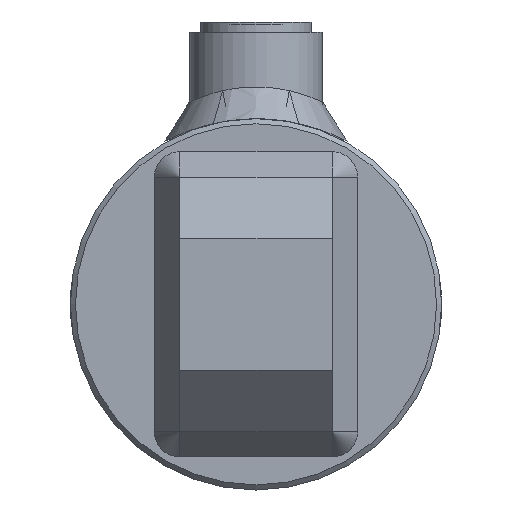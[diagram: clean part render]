
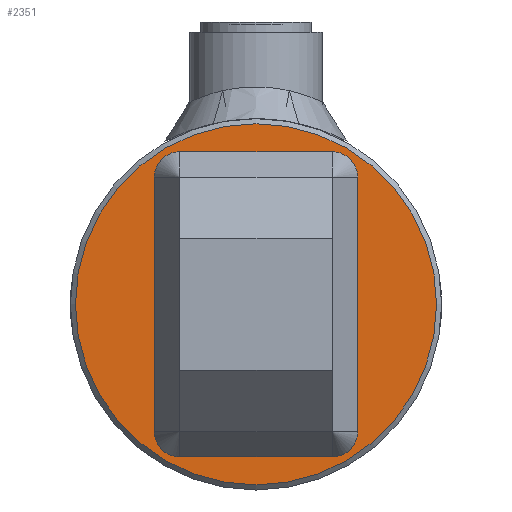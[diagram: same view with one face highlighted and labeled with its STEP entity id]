
A CAD part, left-side view. The second image highlights one B-rep face of the part: STEP entity #2351.
In plain terms, the highlighted planar face has unit normal (-1, 0, 0).
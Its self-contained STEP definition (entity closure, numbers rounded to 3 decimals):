
#2351 = ADVANCED_FACE( '', ( #5794 ), #5795, .T. );
#5794 = FACE_OUTER_BOUND( '', #7311, .T. );
#5795 = PLANE( '', #7312 );
#7311 = EDGE_LOOP( '', ( #8019 ) );
#7312 = AXIS2_PLACEMENT_3D( '', #8020, #8021, #8022 );
#8019 = ORIENTED_EDGE( '', *, *, #9028, .T. );
#8020 = CARTESIAN_POINT( '', ( -12., 0., 0. ) );
#8021 = DIRECTION( '', ( -1., 0., 0. ) );
#8022 = DIRECTION( '', ( 0., -1., 0. ) );
#9028 = EDGE_CURVE( '', #10999, #10999, #11000, .T. );
#10999 = VERTEX_POINT( '', #11935 );
#11000 = CIRCLE( '', #11936, 35.5 );
#11935 = CARTESIAN_POINT( '', ( -12., -35.5, 0. ) );
#11936 = AXIS2_PLACEMENT_3D( '', #12113, #12114, #12115 );
#12113 = CARTESIAN_POINT( '', ( -12., 0., 0. ) );
#12114 = DIRECTION( '', ( -1., 0., 0. ) );
#12115 = DIRECTION( '', ( 0., -1., 0. ) );
